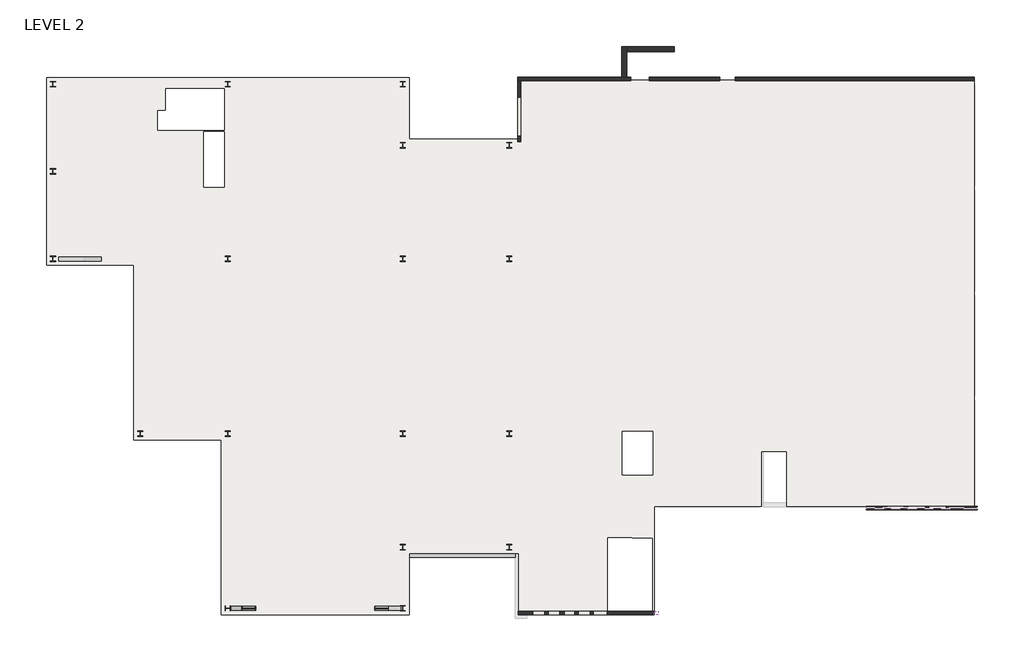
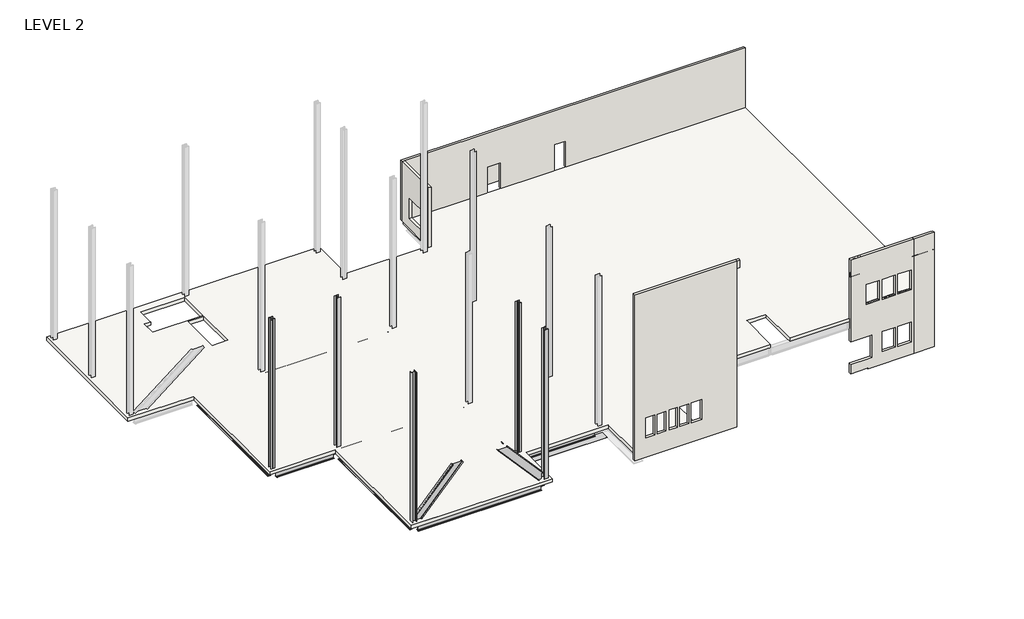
# One storey, part 1 of 2: 9 beams, 8 walls, 5 columns, 2 members, 1 slab.
"""IFC4 building model written with IfcOpenShell, lengths in millimetres."""

from ifc_helpers import new_model, si_unit, frame, origin, place, context, project, spatial, polyline, circle_curve, ellipse_curve, outline, extrude, faceted_brep, transform, mapped, element, save
from ifc_brep_helpers import plane_surface, revolved_surface, advanced_brep
from components import beams_w_wide_flange_w21x50_24f05fb9, beam_ecc97861, w_wide_flange_w24x68_78b43be5, w_wide_flange_w24x68_9b49338e, w_wide_flange_w24x68_f2fd009a, w_wide_flange_column_w12x65_dc519e1b

model = new_model("IFC4")

# Units and contexts
model_context = context("Model", 3, world=origin())
ifc_project = project(units=[si_unit("LENGTHUNIT", "METRE", prefix="MILLI")], contexts=[model_context])

# Site, building, storey
site = spatial("IfcSite", under=ifc_project)
building = spatial("IfcBuilding", under=site)
storey = spatial("IfcBuildingStorey", under=building, Name="LEVEL 2", Elevation=4267.2)

# Beams
placement = place(None, origin())
beams_w_wide_flange_w21x50_shape = beams_w_wide_flange_w21x50_24f05fb9(model_context)
element("IfcBeam", 1, ObjectType="Beams_W-Wide Flange : W21X50", at=placement, inside=storey, context=model_context, shape_type="MappedRepresentation", body=[
    mapped(beams_w_wide_flange_w21x50_shape, transform((4595.7507265, -12746.2413682, 3723.878125), x_axis=(1.0, 0.0, 0.0), y_axis=(0.0, 1.0, 0.0), z_axis=(0.0, 0.0, 1.0))),
])
beam_shape = beam_ecc97861(model_context)
element("IfcBeam", 2, ObjectType="Plate : 1/2X2'- 2 7/8\"", at=placement, inside=storey, context=model_context, shape_type="MappedRepresentation", body=[
    mapped(beam_shape, transform((4651.6096934, -12985.9538682, 3447.25625), x_axis=(1.0000000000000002, 0.0, 0.0), y_axis=(0.0, 0.0, -1.0000000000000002), z_axis=(0.0, 1.0000000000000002, 0.0))),
])
w_wide_flange_w24x68_shape = w_wide_flange_w24x68_78b43be5(model_context)
element("IfcBeam", 3, ObjectType="W-Wide Flange : W24X68", at=placement, inside=storey, context=model_context, shape_type="MappedRepresentation", body=[
    mapped(w_wide_flange_w24x68_shape, transform((-8663.0492735, -1062.2413682, 3686.81), x_axis=(0.0, -1.0, 0.0), y_axis=(1.0, 0.0, 0.0), z_axis=(0.0, 0.0, 1.0))),
])
element("IfcBeam", 4, ObjectType="W-Wide Flange : W24X68", at=placement, inside=storey, context=model_context, shape_type="MappedRepresentation", body=[
    mapped(w_wide_flange_w24x68_shape, transform((-13743.0492735, -1062.2413682, 3686.81), x_axis=(0.0, 1.0, 0.0), y_axis=(-1.0, 0.0, 0.0), z_axis=(0.0, 0.0, 1.0))),
])
element("IfcBeam", 5, ObjectType="W-Wide Flange : W24X68", at=placement, inside=storey, context=model_context, shape_type="MappedRepresentation", body=[
    mapped(w_wide_flange_w24x68_shape, transform((-3583.0492735, -6142.2413682, 3686.81), x_axis=(1.0, 0.0, 0.0), y_axis=(0.0, 1.0, 0.0), z_axis=(0.0, 0.0, 1.0))),
])
element("IfcBeam", 6, ObjectType="W-Wide Flange : W24X68", at=placement, inside=storey, context=model_context, shape_type="MappedRepresentation", body=[
    mapped(w_wide_flange_w24x68_shape, transform((-8663.0492735, -11222.2413682, 3686.81), x_axis=(0.0, 1.0, 0.0), y_axis=(-1.0, 0.0, 0.0), z_axis=(0.0, 0.0, 1.0))),
])
element("IfcBeam", 7, ObjectType="W-Wide Flange : W24X68", at=placement, inside=storey, context=model_context, shape_type="MappedRepresentation", body=[
    mapped(w_wide_flange_w24x68_shape, transform((-3583.0492735, -16302.2413682, 3686.81), x_axis=(1.0, 0.0, 0.0), y_axis=(0.0, 1.0, 0.0), z_axis=(0.0, 0.0, 1.0))),
])
w_wide_flange_w24x68_2_shape = w_wide_flange_w24x68_9b49338e(model_context)
element("IfcBeam", 8, ObjectType="W-Wide Flange : W24X68", at=placement, inside=storey, context=model_context, shape_type="MappedRepresentation", body=[
    mapped(w_wide_flange_w24x68_2_shape, transform((-11203.0492735, -6142.2413682, 3686.81), x_axis=(1.0, 0.0, 0.0), y_axis=(0.0, 1.0, 0.0), z_axis=(0.0, 0.0, 1.0))),
])
w_wide_flange_w24x68_3_shape = w_wide_flange_w24x68_f2fd009a(model_context)
element("IfcBeam", 9, ObjectType="W-Wide Flange : W24X68", at=placement, inside=storey, context=model_context, shape_type="MappedRepresentation", body=[
    mapped(w_wide_flange_w24x68_3_shape, transform((1496.9507265, -14524.2413682, 3686.81), x_axis=(0.0, 1.0, 0.0), y_axis=(-1.0, 0.0, 0.0), z_axis=(0.0, 0.0, 1.0))),
])

# Columns
w_wide_flange_column_w12x65_shape = w_wide_flange_column_w12x65_dc519e1b(model_context)
element("IfcColumn", 10, ObjectType="W-Wide Flange-Column : W12X65", at=placement, inside=storey, context=model_context, shape_type="MappedRepresentation", body=[
    mapped(w_wide_flange_column_w12x65_shape, transform((-13743.0492735, -6142.2413682, 0.0), x_axis=(1.0, 0.0, 0.0), y_axis=(0.0, 1.0, 0.0), z_axis=(0.0, 0.0, 1.0))),
])
element("IfcColumn", 11, ObjectType="W-Wide Flange-Column : W12X65", at=placement, inside=storey, context=model_context, shape_type="MappedRepresentation", body=[
    mapped(w_wide_flange_column_w12x65_shape, transform((1496.9507265, -12746.2413682, 0.0), x_axis=(1.0, 0.0, 0.0), y_axis=(0.0, 1.0, 0.0), z_axis=(0.0, 0.0, 1.0))),
])
element("IfcColumn", 12, ObjectType="W-Wide Flange-Column : W12X65", at=placement, inside=storey, context=model_context, shape_type="MappedRepresentation", body=[
    mapped(w_wide_flange_column_w12x65_shape, transform((1496.9507265, -16302.2413682, 0.0), x_axis=(1.0, 0.0, 0.0), y_axis=(0.0, 1.0, 0.0), z_axis=(0.0, 0.0, 1.0))),
])
element("IfcColumn", 13, ObjectType="W-Wide Flange-Column : W12X65", at=placement, inside=storey, context=model_context, shape_type="MappedRepresentation", body=[
    mapped(w_wide_flange_column_w12x65_shape, transform((-8663.0492735, -16302.2413682, 0.0), x_axis=(0.0, 1.0, 0.0), y_axis=(-1.0, 0.0, 0.0), z_axis=(0.0, 0.0, 1.0))),
])
element("IfcColumn", 14, ObjectType="W-Wide Flange-Column : W12X65", at=placement, inside=storey, context=model_context, shape_type="MappedRepresentation", body=[
    mapped(w_wide_flange_column_w12x65_shape, transform((-8663.0492735, -6142.2413682, 0.0), x_axis=(1.0, 0.0, 0.0), y_axis=(0.0, 1.0, 0.0), z_axis=(0.0, 0.0, 1.0))),
])

# Members
element("IfcMember", 15, ObjectType="W-Wide Flange : W24X68", at=placement, inside=storey, context=model_context, shape_type="AdvancedBrep", body=[
    advanced_brep(
    [(-4894.7107022, -16188.3223682, 7860.0103227), (-4894.7107022, -16273.7298682, 7860.0103227), (-4900.6468695, -16291.2749285, 7865.3720222), (-4900.6468695, -16313.2078078, 7865.3720222), (-4894.7107022, -16330.7528682, 7860.0103227), (-4894.7107022, -16416.1603682, 7860.0103227), (-4883.6837991, -16416.1603682, 7850.0505392), (-4883.6837991, -16188.3223682, 7850.0505392), (-8386.6729551, -16307.5118682, 4315.7220222), (-8462.7700838, -16307.5118682, 4384.4549127), (-8462.7700838, -16296.9708682, 4384.4549127), (-8386.6729551, -16296.9708682, 4315.7220222), (-8096.0033608, -16188.3223682, 4315.7220222), (-8096.0033608, -16273.7298682, 4315.7220222), (-4921.185647, -16296.9708682, 7865.3720222), (-8127.3211309, -16296.9708682, 4315.7220222), (-5629.6860211, -16296.9708682, 7865.3720222), (-8462.7700838, -16296.9708682, 4728.7432385), (-5661.0037913, -16273.7298682, 7865.3720222), (-8462.7700838, -16273.7298682, 4763.4164841), (-5661.0037913, -16188.3223682, 7865.3720222), (-8462.7700838, -16188.3223682, 4763.4164841), (-5681.0266279, -16188.3223682, 7865.3720222), (-8462.7700838, -16188.3223682, 4785.5846246), (-5681.0266279, -16416.1603682, 7865.3720222), (-8462.7700838, -16416.1603682, 4785.5846246), (-5661.0037913, -16416.1603682, 7865.3720222), (-8462.7700838, -16416.1603682, 4763.4164841), (-5661.0037913, -16330.7528682, 7865.3720222), (-8462.7700838, -16330.7528682, 4763.4164841), (-5629.6860211, -16307.5118682, 7865.3720222), (-8462.7700838, -16307.5118682, 4728.7432385), (-4921.185647, -16307.5118682, 7865.3720222), (-8127.3211309, -16307.5118682, 4315.7220222), (-8096.0033608, -16330.7528682, 4315.7220222), (-8096.0033608, -16416.1603682, 4315.7220222), (-8093.0991475, -16416.1603682, 4315.7220222), (-8090.8645997, -16416.1603682, 4299.2432242), (-8090.8645997, -16188.3223682, 4299.2432242), (-8093.0991475, -16188.3223682, 4315.7220222)],
    [
        (0, 1),
        (1, 2, circle_curve(frame((-4911.9579097, -16273.7298682, 7875.5884456), z_axis=(-0.6702862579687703, 0.0, -0.7421026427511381), x_axis=(0.0, -1.0000000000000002, 0.0)), 23.241)),
        (2, 3),
        (3, 4, circle_curve(frame((-4911.9579097, -16330.7528682, 7875.5884456), z_axis=(-0.6702862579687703, 0.0, -0.7421026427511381), x_axis=(0.0, -1.0000000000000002, 0.0)), 23.241)),
        (4, 5),
        (5, 6),
        (6, 7),
        (7, 0),
        (8, 9),
        (9, 10),
        (10, 11),
        (11, 8),
        (0, 12),
        (12, 13),
        (13, 1),
        (14, 2, ellipse_curve(frame((-4921.185647, -16273.7298682, 7865.3720222), z_axis=(0.0, 0.0, 1.0), x_axis=(-1.0, 0.0, 0.0)), 31.3177702, 23.241)),
        (13, 15, ellipse_curve(frame((-8127.3211309, -16273.7298682, 4315.7220222), z_axis=(0.0, 0.0, -1.0), x_axis=(-0.9999999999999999, 0.0, 0.0)), 31.3177702, 23.241)),
        (15, 14),
        (16, 14),
        (15, 11),
        (10, 17),
        (17, 16),
        (18, 16, ellipse_curve(frame((-5629.6860211, -16273.7298682, 7865.3720222), z_axis=(0.0, 0.0, 1.0), x_axis=(-1.0, 0.0, 0.0)), 31.3177702, 23.241)),
        (17, 19, ellipse_curve(frame((-8462.7700838, -16273.7298682, 4728.7432385), z_axis=(-1.0, 0.0, 0.0), x_axis=(0.0, 0.0, -1.0)), 34.6732455, 23.241)),
        (19, 18),
        (20, 18),
        (19, 21),
        (21, 20),
        (22, 20),
        (21, 23),
        (23, 22),
        (24, 22),
        (23, 25),
        (25, 24),
        (26, 24),
        (25, 27),
        (27, 26),
        (28, 26),
        (27, 29),
        (29, 28),
        (30, 28, ellipse_curve(frame((-5629.6860211, -16330.7528682, 7865.3720222), z_axis=(0.0, 0.0, 1.0), x_axis=(-1.0, 0.0, 0.0)), 31.3177702, 23.241)),
        (29, 31, ellipse_curve(frame((-8462.7700838, -16330.7528682, 4728.7432385), z_axis=(-1.0, 0.0, 0.0), x_axis=(0.0, 0.0, -1.0)), 34.6732455, 23.241)),
        (31, 30),
        (32, 30),
        (31, 9),
        (8, 33),
        (33, 32),
        (3, 32, ellipse_curve(frame((-4921.185647, -16330.7528682, 7865.3720222), z_axis=(0.0, 0.0, 1.0), x_axis=(-1.0, 0.0, 0.0)), 31.3177702, 23.241)),
        (33, 34, ellipse_curve(frame((-8127.3211309, -16330.7528682, 4315.7220222), z_axis=(0.0, 0.0, -1.0), x_axis=(-0.9999999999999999, 0.0, 0.0)), 31.3177702, 23.241)),
        (34, 4),
        (34, 35),
        (35, 5),
        (35, 36),
        (36, 37),
        (37, 6),
        (37, 38),
        (38, 7),
        (38, 39),
        (39, 12),
        (36, 39),
    ],
    [
        plane_surface(frame((-5107.0492735, -16302.2413682, 8051.8), z_axis=(0.6702862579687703, 0.0, 0.7421026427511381), x_axis=(-0.7421026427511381, 0.0, 0.6702862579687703))),
        plane_surface(frame((-8438.9350334, -16302.2413682, 4362.9264801), z_axis=(-0.6702862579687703, 0.0, -0.7421026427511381), x_axis=(-0.7421026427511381, 0.0, 0.6702862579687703))),
        plane_surface(frame((-4894.7107022, -16188.3223682, 7860.0103227), z_axis=(-0.7421026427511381, 0.0, 0.6702862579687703), x_axis=(-0.6702862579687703, 0.0, -0.7421026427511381))),
        revolved_surface(polyline([(-8141.391693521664, -16296.9708682, 4300.143899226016), (-4907.115084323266, -16296.9708682, 7880.95014512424)]), (-4911.9579097, -16273.7298682, 7875.5884456), (-0.6702862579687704, 0.0, -0.7421026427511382)),
        plane_surface(frame((-4911.9579097, -16296.9708682, 7875.5884456), z_axis=(0.0, 1.0000000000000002, 0.0), x_axis=(-0.6702862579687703, 0.0, -0.7421026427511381))),
        revolved_surface(polyline([(-8480.017291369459, -16296.9708682, 4709.648115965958), (-5615.615458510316, -16296.9708682, 7880.950145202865)]), (-5302.1406373, -16273.7298682, 8228.0115544), (-0.6702862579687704, 0.0, -0.7421026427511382)),
        plane_surface(frame((-5319.3878448, -16273.7298682, 8243.5896773), z_axis=(0.7421026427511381, 0.0, -0.6702862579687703), x_axis=(-0.6702862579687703, 0.0, -0.7421026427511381))),
        plane_surface(frame((-5319.3878448, -16188.3223682, 8243.5896773), z_axis=(0.0, 1.0000000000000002, 0.0), x_axis=(-0.6702862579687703, 0.0, -0.7421026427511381))),
        plane_surface(frame((-5330.4147479, -16188.3223682, 8253.5494608), z_axis=(-0.7421026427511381, 0.0, 0.6702862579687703), x_axis=(-0.6702862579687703, 0.0, -0.7421026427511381))),
        plane_surface(frame((-5330.4147479, -16416.1603682, 8253.5494608), z_axis=(0.0, -1.0000000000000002, 0.0), x_axis=(-0.6702862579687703, 0.0, -0.7421026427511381))),
        plane_surface(frame((-5319.3878448, -16416.1603682, 8243.5896773), z_axis=(0.7421026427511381, 0.0, -0.6702862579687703), x_axis=(-0.6702862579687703, 0.0, -0.7421026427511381))),
        revolved_surface(polyline([(-8480.017291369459, -16353.9938682, 4709.648115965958), (-5615.615458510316, -16353.9938682, 7880.950145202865)]), (-5302.1406373, -16330.7528682, 8228.0115544), (-0.6702862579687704, 0.0, -0.7421026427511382)),
        plane_surface(frame((-5302.1406373, -16307.5118682, 8228.0115544), z_axis=(0.0, -1.0000000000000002, 0.0), x_axis=(-0.6702862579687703, 0.0, -0.7421026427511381))),
        revolved_surface(polyline([(-8141.391693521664, -16353.9938682, 4300.143899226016), (-4907.115084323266, -16353.9938682, 7880.95014512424)]), (-4911.9579097, -16330.7528682, 7875.5884456), (-0.6702862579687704, 0.0, -0.7421026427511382)),
        plane_surface(frame((-4894.7107022, -16330.7528682, 7860.0103227), z_axis=(-0.7421026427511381, 0.0, 0.6702862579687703), x_axis=(-0.6702862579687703, 0.0, -0.7421026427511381))),
        plane_surface(frame((-4894.7107022, -16416.1603682, 7860.0103227), z_axis=(0.0, -1.0000000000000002, 0.0), x_axis=(-0.6702862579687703, 0.0, -0.7421026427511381))),
        plane_surface(frame((-4883.6837991, -16416.1603682, 7850.0505392), z_axis=(0.7421026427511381, 0.0, -0.6702862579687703), x_axis=(-0.6702862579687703, 0.0, -0.7421026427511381))),
        plane_surface(frame((-4883.6837991, -16188.3223682, 7850.0505392), z_axis=(0.0, 1.0000000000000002, 0.0), x_axis=(-0.6702862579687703, 0.0, -0.7421026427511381))),
        plane_surface(frame((-8047.435399, -21607.437406, 3978.9721406), z_axis=(-0.9909310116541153, 0.0, -0.13437161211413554), x_axis=(0.0, 1.0, 0.0))),
        plane_surface(frame((-8462.7700838, -21607.437406, 4315.7220222), z_axis=(-1.0, 0.0, 0.0), x_axis=(0.0, 1.0, 0.0))),
        plane_surface(frame((-5871.7833938, -21607.437406, 7865.3720222), z_axis=(0.0, 0.0, 1.0), x_axis=(0.0, 1.0, 0.0))),
        plane_surface(frame((-8093.0991475, -21607.437406, 4315.7220222), z_axis=(0.0, 0.0, -1.0), x_axis=(0.0, 1.0, 0.0))),
    ],
    [
        (0, [[1, 2, 3, 4, 5, 6, 7, 8]]),
        (1, [[9, 10, 11, 12]]),
        (2, [[-1, 13, 14, 15]]),
        (3, [[16, -2, -15, 17, 18]]),
        (4, [[19, -18, 20, -11, 21, 22]]),
        (5, [[23, -22, 24, 25]]),
        (6, [[26, -25, 27, 28]]),
        (7, [[29, -28, 30, 31]]),
        (8, [[32, -31, 33, 34]]),
        (9, [[35, -34, 36, 37]]),
        (10, [[38, -37, 39, 40]]),
        (11, [[41, -40, 42, 43]]),
        (12, [[44, -43, 45, -9, 46, 47]]),
        (13, [[48, -47, 49, 50, -4]]),
        (14, [[-5, -50, 51, 52]]),
        (15, [[-6, -52, 53, 54, 55]]),
        (16, [[-7, -55, 56, 57]]),
        (17, [[-8, -57, 58, 59, -13]]),
        (18, [[60, -58, -56, -54]]),
        (19, [[-10, -45, -42, -39, -36, -33, -30, -27, -24, -21]]),
        (20, [[-16, -19, -23, -26, -29, -32, -35, -38, -41, -44, -48, -3]]),
        (21, [[-60, -53, -51, -49, -46, -12, -20, -17, -14, -59]]),
    ],
),
])
element("IfcMember", 16, ObjectType="W-Wide Flange : W24X68", at=placement, inside=storey, context=model_context, shape_type="AdvancedBrep", body=[
    advanced_brep(
    [(-1801.0656385, -16188.3223682, 8242.2582261), (-1801.0656385, -16273.7298682, 8242.2582261), (-1809.3662665, -16293.5614209, 8234.8546014), (-1809.3662665, -16310.9213155, 8234.8546014), (-1801.0656385, -16330.7528682, 8242.2582261), (-1801.0656385, -16416.1603682, 8242.2582261), (-1789.9766747, -16416.1603682, 8252.1488663), (-1789.9766747, -16188.3223682, 8252.1488663), (-1794.3784936, -16273.7298682, 8234.7608846), (-1794.3784936, -16188.3223682, 8234.7608846), (-1774.3560484, -16188.3223682, 8234.6356867), (-1774.3560484, -16416.1603682, 8234.6356867), (-1794.3784936, -16416.1603682, 8234.7608846), (-1794.3784936, -16330.7528682, 8234.7608846)],
    [
        (0, 1),
        (1, 2, circle_curve(frame((-1818.4099151, -16273.7298682, 8226.7882503), z_axis=(0.665632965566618, 0.0, -0.7462792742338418), x_axis=(0.0, -1.0000000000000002, 0.0)), 23.241)),
        (2, 3),
        (3, 4, circle_curve(frame((-1818.4099151, -16330.7528682, 8226.7882503), z_axis=(0.665632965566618, 0.0, -0.7462792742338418), x_axis=(0.0, -1.0000000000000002, 0.0)), 23.241)),
        (4, 5),
        (5, 6),
        (6, 7),
        (7, 0),
        (1, 8),
        (8, 2, ellipse_curve(frame((-1825.6956516, -16273.7298682, 8234.9567071), z_axis=(-0.006252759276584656, 0.0, -0.9999804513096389), x_axis=(0.9999804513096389, 0.0, -0.006252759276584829)), 31.3177702, 23.241)),
        (0, 9),
        (9, 8),
        (7, 10),
        (10, 9),
        (6, 11),
        (11, 10),
        (5, 12),
        (12, 11),
        (4, 13),
        (13, 12),
        (3, 13, ellipse_curve(frame((-1825.6956516, -16330.7528682, 8234.9567071), z_axis=(-0.006252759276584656, 0.0, -0.9999804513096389), x_axis=(0.9999804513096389, 0.0, -0.006252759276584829)), 31.3177702, 23.241)),
    ],
    [
        plane_surface(frame((-2014.5992735, -16302.2413682, 8051.8), z_axis=(-0.665632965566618, 0.0, 0.7462792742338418), x_axis=(0.7462792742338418, 0.0, 0.665632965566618))),
        revolved_surface(polyline([(-1811.722770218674, -16296.9708682, 8219.290908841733), (-1839.6685329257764, -16296.9708682, 8250.622505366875)]), (-1818.4099151, -16273.7298682, 8226.7882503), (0.665632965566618, 0.0, -0.7462792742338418)),
        plane_surface(frame((-1801.0656385, -16273.7298682, 8242.2582261), z_axis=(-0.7462792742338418, 0.0, -0.665632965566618), x_axis=(0.665632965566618, 0.0, -0.7462792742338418))),
        plane_surface(frame((-1801.0656385, -16188.3223682, 8242.2582261), z_axis=(0.0, 1.0, 0.0), x_axis=(0.665632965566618, 0.0, -0.7462792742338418))),
        plane_surface(frame((-1789.9766747, -16188.3223682, 8252.1488663), z_axis=(0.7462792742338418, 0.0, 0.665632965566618), x_axis=(0.665632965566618, 0.0, -0.7462792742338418))),
        plane_surface(frame((-1789.9766747, -16416.1603682, 8252.1488663), z_axis=(0.0, -1.0, 0.0), x_axis=(0.665632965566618, 0.0, -0.7462792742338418))),
        plane_surface(frame((-1801.0656385, -16416.1603682, 8242.2582261), z_axis=(-0.7462792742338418, 0.0, -0.665632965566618), x_axis=(0.665632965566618, 0.0, -0.7462792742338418))),
        revolved_surface(polyline([(-1811.722770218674, -16353.9938682, 8219.290908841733), (-1839.6685329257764, -16353.9938682, 8250.622505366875)]), (-1818.4099151, -16330.7528682, 8226.7882503), (0.665632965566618, 0.0, -0.7462792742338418)),
        plane_surface(frame((-2377.9583795, -11026.7364253, 8238.4099405), z_axis=(-0.006252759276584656, 0.0, -0.9999804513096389), x_axis=(0.0, -1.0, 0.0))),
    ],
    [
        (0, [[1, 2, 3, 4, 5, 6, 7, 8]]),
        (1, [[-2, 9, 10]]),
        (2, [[-1, 11, 12, -9]]),
        (3, [[-8, 13, 14, -11]]),
        (4, [[-7, 15, 16, -13]]),
        (5, [[-6, 17, 18, -15]]),
        (6, [[-5, 19, 20, -17]]),
        (7, [[-4, 21, -19]]),
        (8, [[-3, -10, -12, -14, -16, -18, -20, -21]]),
    ],
),
    advanced_brep(
    [(1119.7391222, -16296.9708682, 4225.2950689), (1195.0472631, -16296.9708682, 4292.465072), (1195.0472631, -16307.5118682, 4292.465072), (1119.7391222, -16307.5118682, 4225.2950689), (-2149.7156622, -16188.3223682, 7773.4237039), (-2149.7156622, -16273.7298682, 7773.4237039), (1014.3986674, -16273.7298682, 4225.9537503), (1014.3986674, -16188.3223682, 4225.9537503), (-2118.3985042, -16296.9708682, 7773.2278814), (1045.7158253, -16296.9708682, 4225.7579278), (-1409.9119804, -16296.9708682, 7768.7977991), (1337.9637743, -16296.9708682, 4687.9967722), (1197.645044, -16296.9708682, 4707.9184736), (-1378.5948225, -16273.7298682, 7768.6019766), (1373.6217155, -16273.7298682, 4682.9342488), (-1378.5948225, -16188.3223682, 7768.6019766), (1373.6217155, -16188.3223682, 4682.9342488), (-1358.5723772, -16188.3223682, 7768.4767787), (1396.4194156, -16188.3223682, 4679.6975535), (-1358.5723772, -16416.1603682, 7768.4767787), (1396.4194156, -16416.1603682, 4679.6975535), (-1378.5948225, -16416.1603682, 7768.6019766), (1373.6217155, -16416.1603682, 4682.9342488), (-1378.5948225, -16330.7528682, 7768.6019766), (1373.6217155, -16330.7528682, 4682.9342488), (-1409.9119804, -16307.5118682, 7768.7977991), (1337.9637743, -16307.5118682, 4687.9967722), (-2118.3985042, -16307.5118682, 7773.2278814), (1045.7158253, -16307.5118682, 4225.7579278), (1197.645044, -16307.5118682, 4707.9184736), (-2149.7156622, -16330.7528682, 7773.4237039), (1014.3986674, -16330.7528682, 4225.9537503), (-2149.7156622, -16416.1603682, 7773.4237039), (1014.3986674, -16416.1603682, 4225.9537503), (-2169.7381074, -16416.1603682, 7773.5489019), (994.3762222, -16416.1603682, 4226.0789483), (-2169.7381074, -16188.3223682, 7773.5489019), (994.3762222, -16188.3223682, 4226.0789483)],
    [
        (0, 1),
        (1, 2),
        (2, 3),
        (3, 0),
        (4, 5),
        (5, 6),
        (6, 7),
        (7, 4),
        (5, 8, ellipse_curve(frame((-2118.3985042, -16273.7298682, 7773.2278814), z_axis=(0.006252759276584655, 0.0, 0.9999804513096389), x_axis=(0.9999804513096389, 0.0, -0.006252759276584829)), 31.3177702, 23.241)),
        (8, 9),
        (9, 6, ellipse_curve(frame((1045.7158253, -16273.7298682, 4225.7579278), z_axis=(-0.006252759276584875, 0.0, -0.999980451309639), x_axis=(0.9999804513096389, 0.0, -0.006252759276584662)), 31.3177702, 23.241)),
        (8, 10),
        (10, 11),
        (11, 12),
        (12, 1),
        (0, 9),
        (10, 13, ellipse_curve(frame((-1409.9119804, -16273.7298682, 7768.7977991), z_axis=(0.006252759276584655, 0.0, 0.9999804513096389), x_axis=(0.9999804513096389, 0.0, -0.006252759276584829)), 31.3177702, 23.241)),
        (13, 14),
        (14, 11, ellipse_curve(frame((1337.9637743, -16273.7298682, 4687.9967722), z_axis=(-0.14056503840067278, 0.0, -0.990071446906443), x_axis=(0.990071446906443, 0.0, -0.1405650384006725)), 36.0155232, 23.241)),
        (13, 15),
        (15, 16),
        (16, 14),
        (15, 17),
        (17, 18),
        (18, 16),
        (17, 19),
        (19, 20),
        (20, 18),
        (19, 21),
        (21, 22),
        (22, 20),
        (21, 23),
        (23, 24),
        (24, 22),
        (23, 25, ellipse_curve(frame((-1409.9119804, -16330.7528682, 7768.7977991), z_axis=(0.006252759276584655, 0.0, 0.9999804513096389), x_axis=(0.9999804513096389, 0.0, -0.006252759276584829)), 31.3177702, 23.241)),
        (25, 26),
        (26, 24, ellipse_curve(frame((1337.9637743, -16330.7528682, 4687.9967722), z_axis=(-0.14056503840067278, 0.0, -0.990071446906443), x_axis=(0.990071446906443, 0.0, -0.1405650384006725)), 36.0155232, 23.241)),
        (25, 27),
        (27, 28),
        (28, 3),
        (2, 29),
        (29, 26),
        (27, 30, ellipse_curve(frame((-2118.3985042, -16330.7528682, 7773.2278814), z_axis=(0.006252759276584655, 0.0, 0.9999804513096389), x_axis=(0.9999804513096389, 0.0, -0.006252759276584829)), 31.3177702, 23.241)),
        (30, 31),
        (31, 28, ellipse_curve(frame((1045.7158253, -16330.7528682, 4225.7579278), z_axis=(-0.006252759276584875, 0.0, -0.999980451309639), x_axis=(0.9999804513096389, 0.0, -0.006252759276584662)), 31.3177702, 23.241)),
        (30, 32),
        (32, 33),
        (33, 31),
        (32, 34),
        (34, 35),
        (35, 33),
        (34, 36),
        (36, 37),
        (37, 35),
        (36, 4),
        (7, 37),
        (29, 12),
    ],
    [
        plane_surface(frame((1274.9324062, -16302.2413682, 4363.7174658), z_axis=(0.665632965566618, 0.0, -0.7462792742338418), x_axis=(0.7462792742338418, 0.0, 0.665632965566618))),
        plane_surface(frame((-2228.1329085, -16188.3223682, 7861.3417739), z_axis=(0.7462792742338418, 0.0, 0.665632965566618), x_axis=(0.665632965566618, 0.0, -0.7462792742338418))),
        revolved_surface(polyline([(1059.6887066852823, -16296.9708682, 4210.092129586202), (-2132.371385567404, -16296.9708682, 7788.893679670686)]), (-2210.7886319, -16273.7298682, 7876.8117497), (0.665632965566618, 0.0, -0.7462792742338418)),
        plane_surface(frame((-2210.7886319, -16296.9708682, 7876.8117497), z_axis=(0.0, 1.0, 0.0), x_axis=(0.665632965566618, 0.0, -0.7462792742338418))),
        revolved_surface(polyline([(1356.2774388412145, -16296.9708682, 4667.464273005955), (-1423.884861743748, -16296.9708682, 7784.463597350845)]), (-1818.4099151, -16273.7298682, 8226.7882503), (0.665632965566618, 0.0, -0.7462792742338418)),
        plane_surface(frame((-1801.0656385, -16273.7298682, 8242.2582261), z_axis=(-0.7462792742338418, 0.0, -0.665632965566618), x_axis=(0.665632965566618, 0.0, -0.7462792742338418))),
        plane_surface(frame((-1801.0656385, -16188.3223682, 8242.2582261), z_axis=(0.0, 1.0, 0.0), x_axis=(0.665632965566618, 0.0, -0.7462792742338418))),
        plane_surface(frame((-1789.9766747, -16188.3223682, 8252.1488663), z_axis=(0.7462792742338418, 0.0, 0.665632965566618), x_axis=(0.665632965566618, 0.0, -0.7462792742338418))),
        plane_surface(frame((-1789.9766747, -16416.1603682, 8252.1488663), z_axis=(0.0, -1.0, 0.0), x_axis=(0.665632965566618, 0.0, -0.7462792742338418))),
        plane_surface(frame((-1801.0656385, -16416.1603682, 8242.2582261), z_axis=(-0.7462792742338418, 0.0, -0.665632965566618), x_axis=(0.665632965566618, 0.0, -0.7462792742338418))),
        revolved_surface(polyline([(1356.2774388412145, -16353.9938682, 4667.464273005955), (-1423.884861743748, -16353.9938682, 7784.463597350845)]), (-1818.4099151, -16330.7528682, 8226.7882503), (0.665632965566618, 0.0, -0.7462792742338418)),
        plane_surface(frame((-1818.4099151, -16307.5118682, 8226.7882503), z_axis=(0.0, -1.0, 0.0), x_axis=(0.665632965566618, 0.0, -0.7462792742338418))),
        revolved_surface(polyline([(1059.6887066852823, -16353.9938682, 4210.092129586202), (-2132.371385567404, -16353.9938682, 7788.893679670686)]), (-2210.7886319, -16330.7528682, 7876.8117497), (0.665632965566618, 0.0, -0.7462792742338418)),
        plane_surface(frame((-2228.1329085, -16330.7528682, 7861.3417739), z_axis=(0.7462792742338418, 0.0, 0.665632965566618), x_axis=(0.665632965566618, 0.0, -0.7462792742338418))),
        plane_surface(frame((-2228.1329085, -16416.1603682, 7861.3417739), z_axis=(0.0, -1.0, 0.0), x_axis=(0.665632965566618, 0.0, -0.7462792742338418))),
        plane_surface(frame((-2239.2218723, -16416.1603682, 7851.4511337), z_axis=(-0.7462792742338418, 0.0, -0.665632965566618), x_axis=(0.665632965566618, 0.0, -0.7462792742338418))),
        plane_surface(frame((-2239.2218723, -16188.3223682, 7851.4511337), z_axis=(0.0, 1.0, 0.0), x_axis=(0.665632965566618, 0.0, -0.7462792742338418))),
        plane_surface(frame((1197.645044, -11026.7364253, 4707.9184736), z_axis=(-0.14056503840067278, 0.0, -0.990071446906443), x_axis=(0.0, -1.0, 0.0))),
        plane_surface(frame((1194.6243291, -11026.7364253, 4224.8268206), z_axis=(0.999980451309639, 0.0, -0.006252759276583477), x_axis=(0.0, -1.0, 0.0))),
        plane_surface(frame((-1354.3532319, -11026.7364253, 7768.4503968), z_axis=(0.006252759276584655, 0.0, 0.9999804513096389), x_axis=(0.0, -1.0, 0.0))),
        plane_surface(frame((824.9606193, -11026.7364253, 4227.138284), z_axis=(-0.006252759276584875, 0.0, -0.999980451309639), x_axis=(0.0, -1.0, 0.0))),
    ],
    [
        (0, [[1, 2, 3, 4]]),
        (1, [[5, 6, 7, 8]]),
        (2, [[9, 10, 11, -6]]),
        (3, [[12, 13, 14, 15, -1, 16, -10]]),
        (4, [[17, 18, 19, -13]]),
        (5, [[20, 21, 22, -18]]),
        (6, [[23, 24, 25, -21]]),
        (7, [[26, 27, 28, -24]]),
        (8, [[29, 30, 31, -27]]),
        (9, [[32, 33, 34, -30]]),
        (10, [[35, 36, 37, -33]]),
        (11, [[38, 39, 40, -3, 41, 42, -36]]),
        (12, [[43, 44, 45, -39]]),
        (13, [[46, 47, 48, -44]]),
        (14, [[49, 50, 51, -47]]),
        (15, [[52, 53, 54, -50]]),
        (16, [[55, -8, 56, -53]]),
        (17, [[57, -14, -19, -22, -25, -28, -31, -34, -37, -42]]),
        (18, [[-57, -41, -2, -15]]),
        (19, [[-5, -55, -52, -49, -46, -43, -38, -35, -32, -29, -26, -23, -20, -17, -12, -9]]),
        (20, [[-4, -40, -45, -48, -51, -54, -56, -7, -11, -16]]),
    ],
),
])

# Slab
element("IfcSlab", 17, ObjectType="7\" LW Concrete on 4\" Metal Deck", at=placement, inside=storey, context=model_context, shape_type="SweptSolid", body=[
    extrude(outline(polyline([(-19191.3492735, 14546.0586318), (1865.2507265, 14546.0586318), (1865.2507265, 10990.0586318), (8292.8345917, 10990.0586318), (8292.8345917, 14403.1836318), (34691.7793613, 14403.1836318), (34691.7793613, -10380.8663682), (23817.2007265, -10380.8663682), (23817.2007265, -7189.9913682), (22328.1257265, -7189.9913682), (22328.1257265, -10380.8663682), (16101.7470917, -10380.8663682), (16101.7470917, -16476.8663682), (16025.5470917, -16476.8663682), (16025.5470917, -12191.8635119), (14819.0470917, -12191.8635119), (14819.0470917, -12160.1135119), (13383.9470917, -12160.1135119), (13383.9470917, -16476.8663682), (8240.3224466, -16476.8663682), (8240.3224466, -13114.5413682), (1865.2507265, -13114.5413682), (1865.2507265, -16670.5413682), (-9031.3492735, -16670.5413682), (-9031.3492735, -6510.5413682), (-14111.3492735, -6510.5413682), (-14111.3492735, 3649.4586318), (-19191.3492735, 3649.4586318), (-19191.3492735, 14546.0586318)]), holes=[polyline([(-8878.9492735, 11507.5836318), (-8878.9492735, 13920.5836318), (-12270.0529083, 13920.5836318), (-12270.0529083, 12625.1836318), (-12744.3338599, 12625.1836318), (-12744.3338599, 11507.5836318), (-8878.9492735, 11507.5836318)]), polyline([(-10072.7492735, 11405.9836318), (-10072.7492735, 8189.7086318), (-8878.9492735, 8189.7086318), (-8878.9492735, 11405.9836318), (-10072.7492735, 11405.9836318)]), polyline([(16025.5470917, -6008.8913682), (14241.1970917, -6008.8913682), (14241.1970917, -8555.2413682), (16025.5470917, -8555.2413682), (16025.5470917, -6008.8913682)])]), frame((0.0, 0.0, 3987.8), z_axis=(0.0, 0.0, 1.0), x_axis=(1.0, 0.0, 0.0)), (0.0, 0.0, 1.0), 279.4),
])

# Walls
element("IfcWall", 18, ObjectType="CMU_8\" - BIM-M", at=placement, inside=storey, context=model_context, shape_type="Brep", body=[
    faceted_brep([(34885.4543613, -10380.8663682, 9144.0), (34691.7793613, -10380.8663682, 9144.0), (33291.4007265, -10380.8663682, 9144.0), (33291.4007265, -10472.9413682, 9144.0), (33300.9257265, -10472.9413682, 9144.0), (33300.9257265, -10482.4663682, 9144.0), (33291.4007265, -10482.4663682, 9144.0), (33291.4007265, -10574.5413682, 9144.0), (34885.4543613, -10574.5413682, 9144.0), (34885.4543613, -10380.8663682, 0.0), (34885.4543613, -10380.8663682, -203.2), (33291.4007265, -10380.8663682, -203.2), (33291.4007265, -10574.5413682, -203.2), (34885.4543613, -10574.5413682, -203.2), (33291.4007265, -10482.4663682, -203.2), (33300.9257265, -10482.4663682, -203.2), (33300.9257265, -10472.9413682, -203.2), (33291.4007265, -10472.9413682, -203.2)], [[[0, 1, 2, 3, 4, 5, 6, 7, 8]], [[2, 1, 0, 9, 10, 11]], [[8, 7, 12, 13]], [[11, 10, 13, 12, 14, 15, 16, 17]], [[2, 11, 17, 3]], [[12, 7, 6, 14]], [[5, 15, 14, 6]], [[15, 5, 4, 16]], [[16, 4, 3, 17]], [[10, 9, 0, 8, 13]]]),
])
element("IfcWall", 19, ObjectType="CMU_8\" - BIM-M", at=placement, inside=storey, context=model_context, shape_type="Brep", body=[
    faceted_brep([(34691.7793613, 14574.6336318, 9144.0), (8170.5970917, 14574.6336318, 9144.0), (8170.5970917, 14380.9586318, 9144.0), (8364.2720917, 14380.9586318, 9144.0), (34691.7793613, 14380.9586318, 9144.0), (34691.7793613, 14574.6336318, 4267.2), (20829.3404651, 14574.6336318, 4267.2), (20829.3404651, 14574.6336318, 6400.8), (19914.9404651, 14574.6336318, 6400.8), (19914.9404651, 14574.6336318, 4267.2), (15806.6711404, 14574.6336318, 4267.2), (15806.6711404, 14574.6336318, 6400.8), (14739.8711404, 14574.6336318, 6400.8), (14739.8711404, 14574.6336318, 4267.2), (14527.1507265, 14574.6336318, 4267.2), (14222.3507265, 14574.6336318, 4267.2), (8170.5970917, 14574.6336318, 4267.2), (8170.5970917, 14380.9586318, 4267.2), (8364.2720917, 14380.9586318, 4267.2), (14739.8711404, 14380.9586318, 4267.2), (14739.8711404, 14380.9586318, 6400.8), (15806.6711404, 14380.9586318, 6400.8), (15806.6711404, 14380.9586318, 4267.2), (19914.9404651, 14380.9586318, 4267.2), (19914.9404651, 14380.9586318, 6400.8), (20829.3404651, 14380.9586318, 6400.8), (20829.3404651, 14380.9586318, 4267.2), (34691.7793613, 14380.9586318, 4267.2)], [[[0, 1, 2, 3, 4]], [[1, 0, 5, 6, 7, 8, 9, 10, 11, 12, 13, 14, 15, 16]], [[4, 3, 2, 17, 18, 19, 20, 21, 22, 23, 24, 25, 26, 27]], [[17, 16, 15, 14, 13, 19, 18]], [[22, 10, 9, 23]], [[5, 27, 26, 6]], [[2, 1, 16, 17]], [[11, 21, 20, 12]], [[21, 11, 10, 22]], [[12, 20, 19, 13]], [[7, 25, 24, 8]], [[25, 7, 6, 26]], [[8, 24, 23, 9]], [[5, 0, 4, 27]]]),
])
element("IfcWall", 20, ObjectType="CMU_8\" - BIM-M", at=placement, inside=storey, context=model_context, shape_type="Brep", body=[
    faceted_brep([(16101.7470917, -16476.8663682, 17068.8), (8221.6007265, -16476.8663682, 17068.8), (8221.6007265, -16670.5413682, 17068.8), (16101.7470917, -16670.5413682, 17068.8), (16101.7470917, -16476.8663682, 16459.2), (16101.7470917, -16476.8663682, 3505.2), (8221.6007265, -16476.8663682, 3505.2), (9751.8489091, -16476.8663682, 6705.6), (9066.0489091, -16476.8663682, 6705.6), (9066.0489091, -16476.8663682, 5080.0), (9751.8489091, -16476.8663682, 5080.0), (10628.1489091, -16476.8663682, 6705.6), (9942.3489091, -16476.8663682, 6705.6), (9942.3489091, -16476.8663682, 5080.0), (10628.1489091, -16476.8663682, 5080.0), (11504.4489091, -16476.8663682, 6705.6), (10894.8489091, -16476.8663682, 6705.6), (10894.8489091, -16476.8663682, 5080.0), (11504.4489091, -16476.8663682, 5080.0), (12380.7489091, -16476.8663682, 6705.6), (11694.9489091, -16476.8663682, 6705.6), (11694.9489091, -16476.8663682, 5080.0), (12380.7489091, -16476.8663682, 5080.0), (13383.9470917, -16476.8663682, 6705.6), (12571.2489091, -16476.8663682, 6705.6), (12571.2489091, -16476.8663682, 5080.0), (13383.9470917, -16476.8663682, 5080.0), (16101.7470917, -16670.5413682, 3505.2), (16101.7470917, -16670.5413682, 16459.2), (8221.6007265, -16670.5413682, 3505.2), (9066.0489091, -16670.5413682, 6705.6), (9751.8489091, -16670.5413682, 6705.6), (9751.8489091, -16670.5413682, 5080.0), (9066.0489091, -16670.5413682, 5080.0), (9942.3489091, -16670.5413682, 6705.6), (10628.1489091, -16670.5413682, 6705.6), (10628.1489091, -16670.5413682, 5080.0), (9942.3489091, -16670.5413682, 5080.0), (10894.8489091, -16670.5413682, 6705.6), (11504.4489091, -16670.5413682, 6705.6), (11504.4489091, -16670.5413682, 5080.0), (10894.8489091, -16670.5413682, 5080.0), (11694.9489091, -16670.5413682, 6705.6), (12380.7489091, -16670.5413682, 6705.6), (12380.7489091, -16670.5413682, 5080.0), (11694.9489091, -16670.5413682, 5080.0), (12571.2489091, -16670.5413682, 6705.6), (13383.9470917, -16670.5413682, 6705.6), (13383.9470917, -16670.5413682, 5080.0), (12571.2489091, -16670.5413682, 5080.0)], [[[0, 1, 2, 3]], [[1, 0, 4, 5, 6], [7, 8, 9, 10], [11, 12, 13, 14], [15, 16, 17, 18], [19, 20, 21, 22], [23, 24, 25, 26]], [[27, 28, 3, 2, 29], [30, 31, 32, 33], [34, 35, 36, 37], [38, 39, 40, 41], [42, 43, 44, 45], [46, 47, 48, 49]], [[6, 5, 27, 29]], [[1, 6, 29, 2]], [[7, 31, 30, 8]], [[9, 33, 32, 10]], [[31, 7, 10, 32]], [[8, 30, 33, 9]], [[11, 35, 34, 12]], [[13, 37, 36, 14]], [[35, 11, 14, 36]], [[12, 34, 37, 13]], [[15, 39, 38, 16]], [[17, 41, 40, 18]], [[39, 15, 18, 40]], [[16, 38, 41, 17]], [[19, 43, 42, 20]], [[21, 45, 44, 22]], [[43, 19, 22, 44]], [[20, 42, 45, 21]], [[23, 47, 46, 24]], [[25, 49, 48, 26]], [[24, 46, 49, 25]], [[0, 3, 28, 27, 5, 4]], [[47, 23, 26, 48]]]),
])
element("IfcWall", 21, ObjectType="CMU_8\" - BIM-M", at=placement, inside=storey, context=model_context, shape_type="SweptSolid", body=[
    extrude(outline(polyline([(16101.7470917, -16476.8663682), (16346.2220917, -16476.8663682), (16346.2220917, -16670.5413682), (16101.7470917, -16670.5413682), (16101.7470917, -16476.8663682)])), frame((0.0, 0.0, 16459.2), z_axis=(0.0, 0.0, 1.0), x_axis=(1.0, 0.0, 0.0)), (0.0, 0.0, 1.0), 609.6),
])
element("IfcWall", 22, ObjectType="CMU_8\" - BIM-M", at=placement, inside=storey, context=model_context, shape_type="SweptSolid", body=[
    extrude(outline(polyline([(14380.9586318, 4267.2), (10837.6586318, 4267.2), (10837.6586318, 9144.0), (14380.9586318, 9144.0), (14380.9586318, 4267.2)]), holes=[polyline([(13424.2252985, 6705.6), (11156.7461318, 6705.6), (11156.7461318, 5080.0), (13424.2252985, 5080.0), (13424.2252985, 6705.6)])]), frame((8170.5970917, 0.0, 0.0), z_axis=(1.0, 0.0, 0.0), x_axis=(0.0, 1.0, 0.0)), (0.0, 0.0, 1.0), 193.675),
])
element("IfcWall", 23, ObjectType="CMU_8\" - BIM-M", at=placement, inside=storey, context=model_context, shape_type="Brep", body=[
    faceted_brep([(28420.9507265, -10380.8663682, 2438.4), (28420.9507265, -10380.8663682, 9144.0), (33281.8757265, -10380.8663682, 9144.0), (33281.8757265, -10380.8663682, -203.2), (29725.6720917, -10380.8663682, -203.2), (29725.6720917, -10380.8663682, -152.4), (28420.9507265, -10380.8663682, -152.4), (28420.9507265, -10380.8663682, 609.6), (30036.8220917, -10380.8663682, 609.6), (30036.8220917, -10380.8663682, 2438.4), (30640.2757265, -10380.8663682, 6705.6), (29624.2757265, -10380.8663682, 6705.6), (29624.2757265, -10380.8663682, 5080.0), (30640.2757265, -10380.8663682, 5080.0), (31859.4757265, -10380.8663682, 6705.6), (30843.4757265, -10380.8663682, 6705.6), (30843.4757265, -10380.8663682, 5080.0), (31859.4757265, -10380.8663682, 5080.0), (33078.6757265, -10380.8663682, 6705.6), (32062.6757265, -10380.8663682, 6705.6), (32062.6757265, -10380.8663682, 5080.0), (33078.6757265, -10380.8663682, 5080.0), (31859.4757265, -10380.8663682, 2438.4), (30843.4757265, -10380.8663682, 2438.4), (30843.4757265, -10380.8663682, 812.8), (31859.4757265, -10380.8663682, 812.8), (33078.6757265, -10380.8663682, 2438.4), (32062.6757265, -10380.8663682, 2438.4), (32062.6757265, -10380.8663682, 812.8), (33078.6757265, -10380.8663682, 812.8), (28420.9507265, -10574.5413682, 9144.0), (28420.9507265, -10574.5413682, 2438.4), (30036.8220917, -10574.5413682, 2438.4), (30036.8220917, -10574.5413682, 609.6), (29919.3470917, -10574.5413682, 609.6), (29725.6720917, -10574.5413682, 609.6), (28420.9507265, -10574.5413682, 609.6), (28420.9507265, -10574.5413682, -152.4), (29725.6720917, -10574.5413682, -152.4), (29725.6720917, -10574.5413682, -203.2), (33281.8757265, -10574.5413682, -203.2), (33281.8757265, -10574.5413682, 9144.0), (29624.2757265, -10574.5413682, 6705.6), (30640.2757265, -10574.5413682, 6705.6), (30640.2757265, -10574.5413682, 5080.0), (29624.2757265, -10574.5413682, 5080.0), (30843.4757265, -10574.5413682, 6705.6), (31859.4757265, -10574.5413682, 6705.6), (31859.4757265, -10574.5413682, 5080.0), (30843.4757265, -10574.5413682, 5080.0), (32062.6757265, -10574.5413682, 6705.6), (33078.6757265, -10574.5413682, 6705.6), (33078.6757265, -10574.5413682, 5080.0), (32062.6757265, -10574.5413682, 5080.0), (30843.4757265, -10574.5413682, 2438.4), (31859.4757265, -10574.5413682, 2438.4), (31859.4757265, -10574.5413682, 812.8), (30843.4757265, -10574.5413682, 812.8), (32062.6757265, -10574.5413682, 2438.4), (33078.6757265, -10574.5413682, 2438.4), (33078.6757265, -10574.5413682, 812.8), (32062.6757265, -10574.5413682, 812.8), (33281.8757265, -10482.4663682, -203.2), (33281.8757265, -10482.4663682, 9144.0), (33281.8757265, -10472.9413682, 9144.0), (33281.8757265, -10472.9413682, -203.2), (33272.3507265, -10472.9413682, 9144.0), (33272.3507265, -10472.9413682, -203.2), (33272.3507265, -10482.4663682, 9144.0), (33272.3507265, -10482.4663682, -203.2)], [[[0, 1, 2, 3, 4, 5, 6, 7, 8, 9], [10, 11, 12, 13], [14, 15, 16, 17], [18, 19, 20, 21], [22, 23, 24, 25], [26, 27, 28, 29]], [[30, 31, 32, 33, 34, 35, 36, 37, 38, 39, 40, 41], [42, 43, 44, 45], [46, 47, 48, 49], [50, 51, 52, 53], [54, 55, 56, 57], [58, 59, 60, 61]], [[62, 63, 41, 40]], [[64, 65, 3, 2]], [[65, 64, 66, 67]], [[67, 66, 68, 69]], [[63, 62, 69, 68]], [[10, 43, 42, 11]], [[12, 45, 44, 13]], [[43, 10, 13, 44]], [[11, 42, 45, 12]], [[14, 47, 46, 15]], [[16, 49, 48, 17]], [[47, 14, 17, 48]], [[15, 46, 49, 16]], [[18, 51, 50, 19]], [[20, 53, 52, 21]], [[51, 18, 21, 52]], [[19, 50, 53, 20]], [[9, 32, 31, 0]], [[33, 8, 7, 36, 35, 34]], [[32, 9, 8, 33]], [[22, 55, 54, 23]], [[24, 57, 56, 25]], [[55, 22, 25, 56]], [[23, 54, 57, 24]], [[26, 59, 58, 27]], [[28, 61, 60, 29]], [[59, 26, 29, 60]], [[27, 58, 61, 28]], [[39, 4, 3, 65, 67, 69, 62, 40]], [[1, 0, 31, 30]], [[36, 7, 6, 37]], [[1, 30, 41, 63, 68, 66, 64, 2]], [[6, 5, 38, 37]], [[38, 5, 4, 39]]]),
])
element("IfcWall", 24, ObjectType="Conc_12\" - BIM-M", at=placement, inside=storey, context=model_context, shape_type="Brep", body=[
    faceted_brep([(14222.3507265, 16362.1586318, 3606.8), (14222.3507265, 14685.7586318, 3606.8), (14222.3507265, 14685.7586318, 4267.2), (14222.3507265, 14574.6336318, 4267.2), (14222.3507265, 14574.6336318, 5486.4), (14222.3507265, 16362.1586318, 5486.4), (14527.1507265, 16362.1586318, 3606.8), (14527.1507265, 16362.1586318, 5486.4), (14527.1507265, 16057.3586318, 5486.4), (14527.1507265, 14574.6336318, 5486.4), (14527.1507265, 14574.6336318, 4267.2), (14527.1507265, 14685.7586318, 4267.2), (14527.1507265, 14685.7586318, 3606.8), (14527.1507265, 16057.3586318, 3606.8)], [[[0, 1, 2, 3, 4, 5]], [[6, 7, 8, 9, 10, 11, 12, 13]], [[1, 0, 6, 13, 12]], [[5, 4, 9, 8, 7]], [[0, 5, 7, 6]], [[10, 3, 2, 11]], [[2, 1, 12, 11]], [[4, 3, 10, 9]]]),
])
element("IfcWall", 25, ObjectType="Conc_12\" - BIM-M", at=placement, inside=storey, context=model_context, shape_type="SweptSolid", body=[
    extrude(outline(polyline([(14527.1507265, 16362.1586318), (17270.3507265, 16362.1586318), (17270.3507265, 16057.3586318), (14527.1507265, 16057.3586318), (14527.1507265, 16362.1586318)])), frame((0.0, 0.0, 3606.8), z_axis=(0.0, 0.0, 1.0), x_axis=(1.0, 0.0, 0.0)), (0.0, 0.0, 1.0), 1879.6),
])

save(model, "model.ifc")
